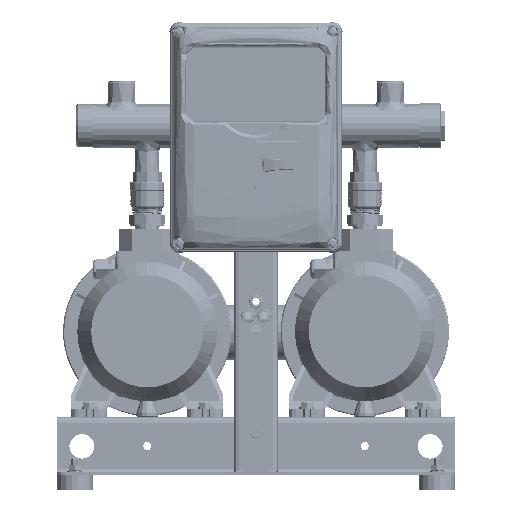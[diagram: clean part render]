
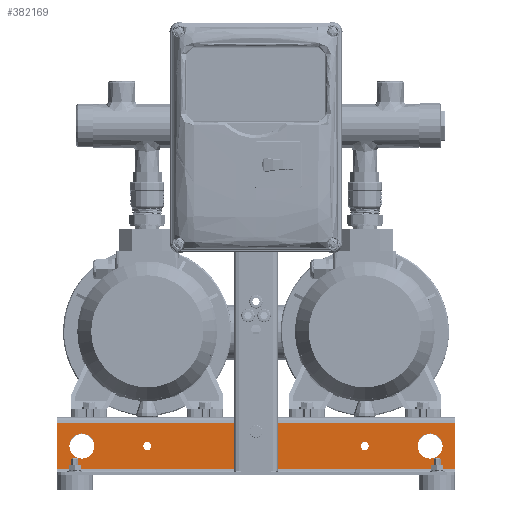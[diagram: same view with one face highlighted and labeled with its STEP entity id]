
A CAD part, top view. The second image highlights one B-rep face of the part: STEP entity #382169.
In plain terms, the highlighted planar face has unit normal (0, 0, 1) as drawn and (0, 0, -1) by its records, which use the part's own axes.
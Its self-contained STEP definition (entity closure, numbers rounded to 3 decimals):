
#375900=DIRECTION('',(1.,0.,0.));
#375901=VECTOR('',#375900,550.);
#375902=CARTESIAN_POINT('',(-275.,-8.,-150.));
#375903=LINE('',#375902,#375901);
#378130=DIRECTION('',(0.,1.,0.));
#378131=VECTOR('',#378130,64.);
#378132=CARTESIAN_POINT('',(-275.,-72.,-150.));
#378133=LINE('',#378132,#378131);
#378151=DIRECTION('',(1.,0.,0.));
#378152=VECTOR('',#378151,550.);
#378153=CARTESIAN_POINT('',(-275.,-72.,-150.));
#378154=LINE('',#378153,#378152);
#378181=DIRECTION('',(0.,1.,0.));
#378182=VECTOR('',#378181,26.);
#378183=CARTESIAN_POINT('',(-26.7,-40.,-150.));
#378184=LINE('',#378183,#378182);
#378188=DIRECTION('',(1.,0.,0.));
#378189=VECTOR('',#378188,3.6);
#378190=CARTESIAN_POINT('',(-30.3,-40.,-150.));
#378191=LINE('',#378190,#378189);
#378195=DIRECTION('',(0.,-1.,0.));
#378196=VECTOR('',#378195,26.);
#378197=CARTESIAN_POINT('',(-30.3,-14.,-150.));
#378198=LINE('',#378197,#378196);
#378202=DIRECTION('',(-1.,0.,0.));
#378203=VECTOR('',#378202,3.6);
#378204=CARTESIAN_POINT('',(-26.7,-14.,-150.));
#378205=LINE('',#378204,#378203);
#378209=DIRECTION('',(0.,1.,0.));
#378210=VECTOR('',#378209,26.);
#378211=CARTESIAN_POINT('',(30.3,-40.,-150.));
#378212=LINE('',#378211,#378210);
#378216=DIRECTION('',(1.,0.,0.));
#378217=VECTOR('',#378216,3.6);
#378218=CARTESIAN_POINT('',(26.7,-40.,-150.));
#378219=LINE('',#378218,#378217);
#378223=DIRECTION('',(0.,-1.,0.));
#378224=VECTOR('',#378223,26.);
#378225=CARTESIAN_POINT('',(26.7,-14.,-150.));
#378226=LINE('',#378225,#378224);
#378230=DIRECTION('',(-1.,0.,0.));
#378231=VECTOR('',#378230,3.6);
#378232=CARTESIAN_POINT('',(30.3,-14.,-150.));
#378233=LINE('',#378232,#378231);
#378237=CARTESIAN_POINT('',(0.,-20.,-150.));
#378238=DIRECTION('',(0.,0.,-1.));
#378239=DIRECTION('',(1.,0.,0.));
#378240=AXIS2_PLACEMENT_3D('',#378237,#378238,#378239);
#378245=CARTESIAN_POINT('',(0.,-20.,-150.));
#378246=DIRECTION('',(0.,0.,-1.));
#378247=DIRECTION('',(-1.,0.,0.));
#378248=AXIS2_PLACEMENT_3D('',#378245,#378246,#378247);
#378253=CARTESIAN_POINT('',(-240.,-40.,-150.));
#378254=DIRECTION('',(0.,0.,1.));
#378255=DIRECTION('',(-1.,0.,0.));
#378256=AXIS2_PLACEMENT_3D('',#378253,#378254,#378255);
#378261=CARTESIAN_POINT('',(-240.,-40.,-150.));
#378262=DIRECTION('',(0.,0.,1.));
#378263=DIRECTION('',(1.,0.,0.));
#378264=AXIS2_PLACEMENT_3D('',#378261,#378262,#378263);
#378269=CARTESIAN_POINT('',(240.,-40.,-150.));
#378270=DIRECTION('',(0.,0.,1.));
#378271=DIRECTION('',(-1.,0.,0.));
#378272=AXIS2_PLACEMENT_3D('',#378269,#378270,#378271);
#378277=CARTESIAN_POINT('',(240.,-40.,-150.));
#378278=DIRECTION('',(0.,0.,1.));
#378279=DIRECTION('',(1.,0.,0.));
#378280=AXIS2_PLACEMENT_3D('',#378277,#378278,#378279);
#378285=CARTESIAN_POINT('',(-150.,-40.,-150.));
#378286=DIRECTION('',(0.,0.,1.));
#378287=DIRECTION('',(1.,0.,0.));
#378288=AXIS2_PLACEMENT_3D('',#378285,#378286,#378287);
#378293=CARTESIAN_POINT('',(-150.,-40.,-150.));
#378294=DIRECTION('',(0.,0.,1.));
#378295=DIRECTION('',(-1.,0.,0.));
#378296=AXIS2_PLACEMENT_3D('',#378293,#378294,#378295);
#378301=CARTESIAN_POINT('',(150.,-40.,-150.));
#378302=DIRECTION('',(0.,0.,-1.));
#378303=DIRECTION('',(-1.,0.,0.));
#378304=AXIS2_PLACEMENT_3D('',#378301,#378302,#378303);
#378309=CARTESIAN_POINT('',(150.,-40.,-150.));
#378310=DIRECTION('',(0.,0.,-1.));
#378311=DIRECTION('',(1.,0.,0.));
#378312=AXIS2_PLACEMENT_3D('',#378309,#378310,#378311);
#378331=DIRECTION('',(0.,1.,0.));
#378332=VECTOR('',#378331,64.);
#378333=CARTESIAN_POINT('',(275.,-72.,-150.));
#378334=LINE('',#378333,#378332);
#379896=CARTESIAN_POINT('',(-275.,-72.,-150.));
#379897=CARTESIAN_POINT('',(-275.,-8.,-150.));
#379898=VERTEX_POINT('',#379896);
#379899=VERTEX_POINT('',#379897);
#379900=CARTESIAN_POINT('',(275.,-72.,-150.));
#379901=CARTESIAN_POINT('',(275.,-8.,-150.));
#379902=VERTEX_POINT('',#379900);
#379903=VERTEX_POINT('',#379901);
#380256=CARTESIAN_POINT('',(-26.7,-40.,-150.));
#380257=CARTESIAN_POINT('',(-26.7,-14.,-150.));
#380258=VERTEX_POINT('',#380256);
#380259=VERTEX_POINT('',#380257);
#380260=CARTESIAN_POINT('',(-30.3,-14.,-150.));
#380261=VERTEX_POINT('',#380260);
#380262=CARTESIAN_POINT('',(-30.3,-40.,-150.));
#380263=VERTEX_POINT('',#380262);
#380264=CARTESIAN_POINT('',(30.3,-40.,-150.));
#380265=CARTESIAN_POINT('',(30.3,-14.,-150.));
#380266=VERTEX_POINT('',#380264);
#380267=VERTEX_POINT('',#380265);
#380268=CARTESIAN_POINT('',(26.7,-14.,-150.));
#380269=VERTEX_POINT('',#380268);
#380270=CARTESIAN_POINT('',(26.7,-40.,-150.));
#380271=VERTEX_POINT('',#380270);
#380288=CARTESIAN_POINT('',(6.25,-20.,-150.));
#380289=CARTESIAN_POINT('',(-6.25,-20.,-150.));
#380290=VERTEX_POINT('',#380288);
#380291=VERTEX_POINT('',#380289);
#380312=CARTESIAN_POINT('',(-257.5,-40.,-150.));
#380313=CARTESIAN_POINT('',(-222.5,-40.,-150.));
#380314=VERTEX_POINT('',#380312);
#380315=VERTEX_POINT('',#380313);
#380316=CARTESIAN_POINT('',(222.5,-40.,-150.));
#380317=CARTESIAN_POINT('',(257.5,-40.,-150.));
#380318=VERTEX_POINT('',#380316);
#380319=VERTEX_POINT('',#380317);
#380412=CARTESIAN_POINT('',(-143.75,-40.,-150.));
#380413=CARTESIAN_POINT('',(-156.25,-40.,-150.));
#380414=VERTEX_POINT('',#380412);
#380415=VERTEX_POINT('',#380413);
#380424=CARTESIAN_POINT('',(143.75,-40.,-150.));
#380426=VERTEX_POINT('',#380424);
#380432=CARTESIAN_POINT('',(156.25,-40.,-150.));
#380434=VERTEX_POINT('',#380432);
#382107=CARTESIAN_POINT('',(-275.,-76.,-150.));
#382108=DIRECTION('',(0.,0.,-1.));
#382109=DIRECTION('',(0.,1.,0.));
#382110=AXIS2_PLACEMENT_3D('',#382107,#382108,#382109);
#382111=PLANE('',#382110);
#382112=ORIENTED_EDGE('',*,*,#382060,.F.);
#382113=ORIENTED_EDGE('',*,*,#382097,.T.);
#382115=ORIENTED_EDGE('',*,*,#382114,.T.);
#382116=ORIENTED_EDGE('',*,*,#381168,.F.);
#382117=EDGE_LOOP('',(#382112,#382113,#382115,#382116));
#382118=FACE_OUTER_BOUND('',#382117,.F.);
#382120=ORIENTED_EDGE('',*,*,#382119,.F.);
#382122=ORIENTED_EDGE('',*,*,#382121,.F.);
#382124=ORIENTED_EDGE('',*,*,#382123,.F.);
#382126=ORIENTED_EDGE('',*,*,#382125,.F.);
#382127=EDGE_LOOP('',(#382120,#382122,#382124,#382126));
#382128=FACE_BOUND('',#382127,.F.);
#382130=ORIENTED_EDGE('',*,*,#382129,.F.);
#382132=ORIENTED_EDGE('',*,*,#382131,.F.);
#382134=ORIENTED_EDGE('',*,*,#382133,.F.);
#382136=ORIENTED_EDGE('',*,*,#382135,.F.);
#382137=EDGE_LOOP('',(#382130,#382132,#382134,#382136));
#382138=FACE_BOUND('',#382137,.F.);
#382140=ORIENTED_EDGE('',*,*,#382139,.T.);
#382142=ORIENTED_EDGE('',*,*,#382141,.T.);
#382143=EDGE_LOOP('',(#382140,#382142));
#382144=FACE_BOUND('',#382143,.F.);
#382146=ORIENTED_EDGE('',*,*,#382145,.F.);
#382148=ORIENTED_EDGE('',*,*,#382147,.F.);
#382149=EDGE_LOOP('',(#382146,#382148));
#382150=FACE_BOUND('',#382149,.F.);
#382152=ORIENTED_EDGE('',*,*,#382151,.F.);
#382154=ORIENTED_EDGE('',*,*,#382153,.F.);
#382155=EDGE_LOOP('',(#382152,#382154));
#382156=FACE_BOUND('',#382155,.F.);
#382158=ORIENTED_EDGE('',*,*,#382157,.F.);
#382160=ORIENTED_EDGE('',*,*,#382159,.F.);
#382161=EDGE_LOOP('',(#382158,#382160));
#382162=FACE_BOUND('',#382161,.F.);
#382164=ORIENTED_EDGE('',*,*,#382163,.T.);
#382166=ORIENTED_EDGE('',*,*,#382165,.T.);
#382167=EDGE_LOOP('',(#382164,#382166));
#382168=FACE_BOUND('',#382167,.F.);
#378241=CIRCLE('',#378240,6.25);
#378249=CIRCLE('',#378248,6.25);
#378257=CIRCLE('',#378256,17.5);
#378265=CIRCLE('',#378264,17.5);
#378273=CIRCLE('',#378272,17.5);
#378281=CIRCLE('',#378280,17.5);
#378289=CIRCLE('',#378288,6.25);
#378297=CIRCLE('',#378296,6.25);
#378305=CIRCLE('',#378304,6.25);
#378313=CIRCLE('',#378312,6.25);
#381168=EDGE_CURVE('',#379899,#379903,#375903,.T.);
#382060=EDGE_CURVE('',#379898,#379899,#378133,.T.);
#382097=EDGE_CURVE('',#379898,#379902,#378154,.T.);
#382114=EDGE_CURVE('',#379902,#379903,#378334,.T.);
#382119=EDGE_CURVE('',#380258,#380259,#378184,.T.);
#382121=EDGE_CURVE('',#380263,#380258,#378191,.T.);
#382123=EDGE_CURVE('',#380261,#380263,#378198,.T.);
#382125=EDGE_CURVE('',#380259,#380261,#378205,.T.);
#382129=EDGE_CURVE('',#380266,#380267,#378212,.T.);
#382131=EDGE_CURVE('',#380271,#380266,#378219,.T.);
#382133=EDGE_CURVE('',#380269,#380271,#378226,.T.);
#382135=EDGE_CURVE('',#380267,#380269,#378233,.T.);
#382139=EDGE_CURVE('',#380290,#380291,#378241,.T.);
#382141=EDGE_CURVE('',#380291,#380290,#378249,.T.);
#382145=EDGE_CURVE('',#380314,#380315,#378257,.T.);
#382147=EDGE_CURVE('',#380315,#380314,#378265,.T.);
#382151=EDGE_CURVE('',#380318,#380319,#378273,.T.);
#382153=EDGE_CURVE('',#380319,#380318,#378281,.T.);
#382157=EDGE_CURVE('',#380414,#380415,#378289,.T.);
#382159=EDGE_CURVE('',#380415,#380414,#378297,.T.);
#382163=EDGE_CURVE('',#380426,#380434,#378305,.T.);
#382165=EDGE_CURVE('',#380434,#380426,#378313,.T.);
#382169=ADVANCED_FACE('',(#382118,#382128,#382138,#382144,#382150,#382156,
#382162,#382168),#382111,.T.);
